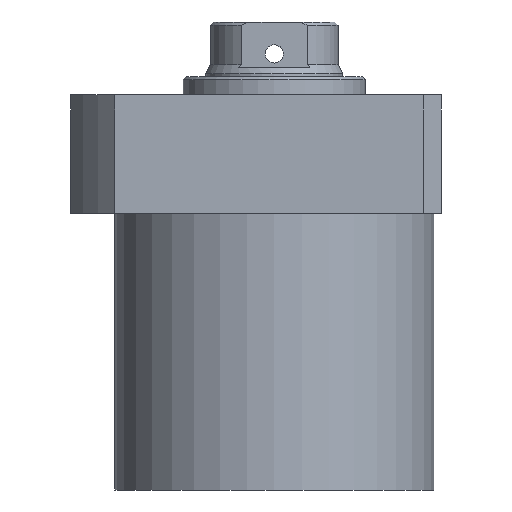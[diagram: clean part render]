
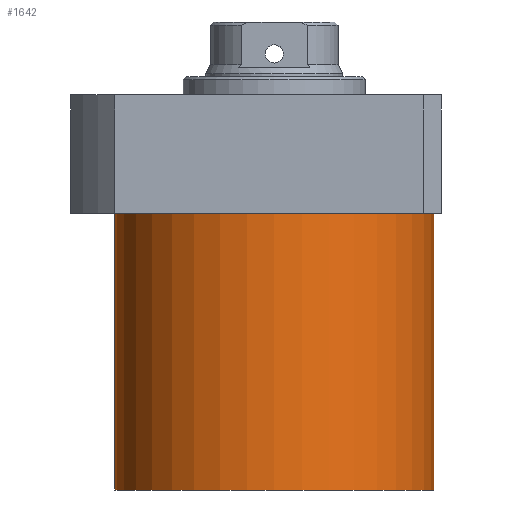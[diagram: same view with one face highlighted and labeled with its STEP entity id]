
A CAD part, front view. The second image highlights one B-rep face of the part: STEP entity #1642.
In plain terms, the highlighted cylindrical face has radius 52.5 mm (diameter 105 mm), a partial arc.
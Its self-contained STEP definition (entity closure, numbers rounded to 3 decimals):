
#7 = CARTESIAN_POINT ( 'NONE',  ( 0., 0., -110.5 ) ) ;
#29 = EDGE_CURVE ( 'NONE', #1621, #2106, #808, .T. ) ;
#80 = CYLINDRICAL_SURFACE ( 'NONE', #987, 52.5 ) ;
#85 = EDGE_CURVE ( 'NONE', #1782, #1785, #2151, .T. ) ;
#318 = ORIENTED_EDGE ( 'NONE', *, *, #85, .F. ) ;
#321 = CARTESIAN_POINT ( 'NONE',  ( 0., 0., -19.5 ) ) ;
#382 = ORIENTED_EDGE ( 'NONE', *, *, #1009, .F. ) ;
#414 = CARTESIAN_POINT ( 'NONE',  ( 0., 0., -110.5 ) ) ;
#622 = FACE_OUTER_BOUND ( 'NONE', #1276, .T. ) ;
#637 = CARTESIAN_POINT ( 'NONE',  ( -52.5, 0., -110.5 ) ) ;
#645 = DIRECTION ( 'NONE',  ( 0., 0., 1. ) ) ;
#801 = CARTESIAN_POINT ( 'NONE',  ( 52.5, 0., -110.5 ) ) ;
#808 = CIRCLE ( 'NONE', #1723, 52.5 ) ;
#942 = LINE ( 'NONE', #637, #1971 ) ;
#963 = VECTOR ( 'NONE', #1992, 1000. ) ;
#967 = DIRECTION ( 'NONE',  ( 0., 0., -1. ) ) ;
#987 = AXIS2_PLACEMENT_3D ( 'NONE', #414, #1947, #1404 ) ;
#1009 = EDGE_CURVE ( 'NONE', #1785, #2106, #942, .T. ) ;
#1156 = LINE ( 'NONE', #1837, #963 ) ;
#1162 = DIRECTION ( 'NONE',  ( 0., 0., -1. ) ) ;
#1276 = EDGE_LOOP ( 'NONE', ( #382, #318, #1961, #1456 ) ) ;
#1327 = DIRECTION ( 'NONE',  ( 1., 0., 0. ) ) ;
#1331 = DIRECTION ( 'NONE',  ( -1., 0., 0. ) ) ;
#1404 = DIRECTION ( 'NONE',  ( 1., 0., 0. ) ) ;
#1428 = AXIS2_PLACEMENT_3D ( 'NONE', #7, #1162, #1331 ) ;
#1456 = ORIENTED_EDGE ( 'NONE', *, *, #29, .T. ) ;
#1568 = CARTESIAN_POINT ( 'NONE',  ( -52.5, 0., -19.5 ) ) ;
#1621 = VERTEX_POINT ( 'NONE', #2103 ) ;
#1642 = ADVANCED_FACE ( 'NONE', ( #622 ), #80, .T. ) ;
#1723 = AXIS2_PLACEMENT_3D ( 'NONE', #321, #967, #1327 ) ;
#1782 = VERTEX_POINT ( 'NONE', #801 ) ;
#1785 = VERTEX_POINT ( 'NONE', #2150 ) ;
#1837 = CARTESIAN_POINT ( 'NONE',  ( 52.5, 0., -110.5 ) ) ;
#1903 = EDGE_CURVE ( 'NONE', #1782, #1621, #1156, .T. ) ;
#1947 = DIRECTION ( 'NONE',  ( 0., 0., 1. ) ) ;
#1961 = ORIENTED_EDGE ( 'NONE', *, *, #1903, .T. ) ;
#1971 = VECTOR ( 'NONE', #645, 1000. ) ;
#1992 = DIRECTION ( 'NONE',  ( 0., 0., 1. ) ) ;
#2103 = CARTESIAN_POINT ( 'NONE',  ( 52.5, 0., -19.5 ) ) ;
#2106 = VERTEX_POINT ( 'NONE', #1568 ) ;
#2150 = CARTESIAN_POINT ( 'NONE',  ( -52.5, 0., -110.5 ) ) ;
#2151 = CIRCLE ( 'NONE', #1428, 52.5 ) ;
